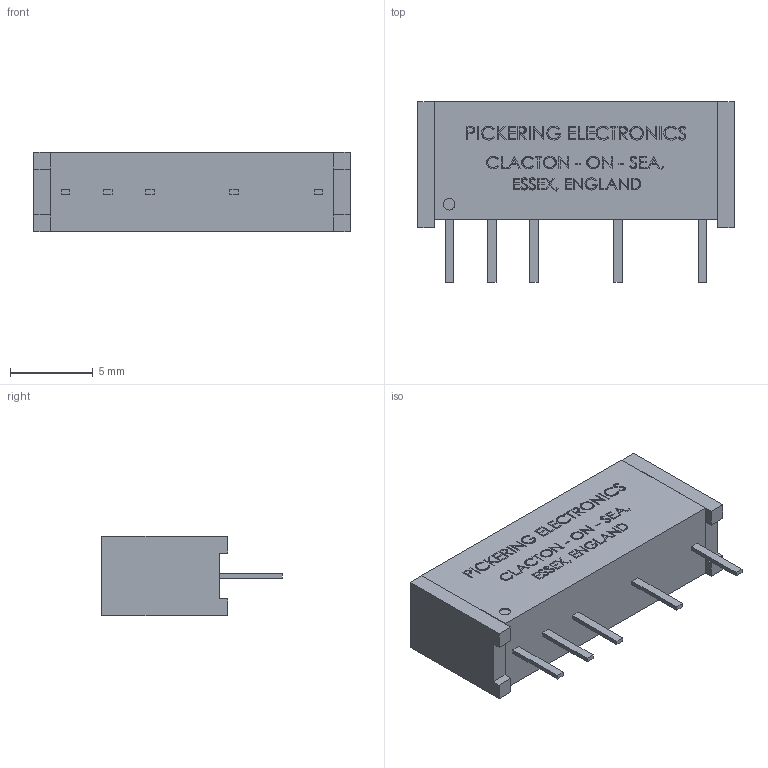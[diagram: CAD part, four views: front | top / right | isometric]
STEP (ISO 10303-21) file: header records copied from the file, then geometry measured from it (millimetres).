
FILE_DESCRIPTION (( 'STEP AP203' ), '1' );
FILE_NAME ('107-1-C-5-3D.STEP', '2010-06-30T13:07:50', ( ' ' ), ( '' ), 'SwSTEP 2.0', 'SolidWorks 2009', '' );
FILE_SCHEMA (( 'CONFIG_CONTROL_DESIGN' ));
Length unit declared in the file: millimetre
Products named in the file (1): 107-1-C-5-3D
Bounding box: 19.1 x 10.9 x 4.8 mm (x, y, z)
Volume: 653.5 mm3; surface area: 724.6 mm2
Topology: 8 solids, 8 shells, 989 faces, 2610 edges, 1740 vertices
Faces by surface type: plane 717, bspline 270, cylinder 2
Entity records: 45367 total; most frequent: CARTESIAN_POINT 22626, ORIENTED_EDGE 5220, DIRECTION 3514, EDGE_CURVE 2610, VECTOR 2066, LINE 2066, VERTEX_POINT 1740, EDGE_LOOP 1092
